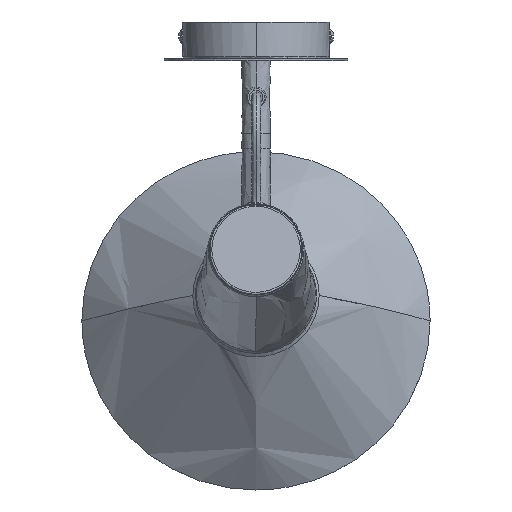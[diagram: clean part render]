
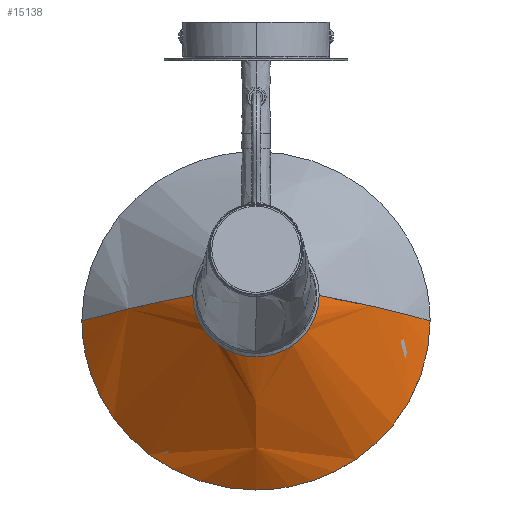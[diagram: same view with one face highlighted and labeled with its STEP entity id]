
A CAD part, top view. The second image highlights one B-rep face of the part: STEP entity #15138.
In plain terms, the highlighted free-form (B-spline) face has degree [3, 3] with [7, 4] control points.
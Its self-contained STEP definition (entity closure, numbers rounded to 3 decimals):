
#242 = CARTESIAN_POINT ( 'NONE',  ( -75.29, 4575.271, -757.945 ) ) ;
#1150 = CARTESIAN_POINT ( 'NONE',  ( 19.638, 4545.809, -712.557 ) ) ;
#1196 =( BOUNDED_CURVE ( )  B_SPLINE_CURVE ( 2, ( #3777, #8243, #12170 ),
 .UNSPECIFIED., .F., .F. ) 
 B_SPLINE_CURVE_WITH_KNOTS ( ( 3, 3 ),
 ( 0., 1. ),
 .UNSPECIFIED. ) 
 CURVE ( )  GEOMETRIC_REPRESENTATION_ITEM ( )  RATIONAL_B_SPLINE_CURVE ( ( 1., 0.707, 1. ) ) 
 REPRESENTATION_ITEM ( '' )  );
#1429 = CARTESIAN_POINT ( 'NONE',  ( -32.694, 4520.567, -723.74 ) ) ;
#1523 =( BOUNDED_CURVE ( )  B_SPLINE_CURVE ( 2, ( #4525, #19362, #4633 ),
 .UNSPECIFIED., .F., .F. ) 
 B_SPLINE_CURVE_WITH_KNOTS ( ( 3, 3 ),
 ( -84.326, 0. ),
 .UNSPECIFIED. ) 
 CURVE ( )  GEOMETRIC_REPRESENTATION_ITEM ( )  RATIONAL_B_SPLINE_CURVE ( ( 1., 0.994, 1. ) ) 
 REPRESENTATION_ITEM ( '' )  );
#1586 = VERTEX_POINT ( 'NONE', #11548 ) ;
#2173 = EDGE_CURVE ( 'NONE', #9201, #13531, #12275, .T. ) ;
#2676 =( BOUNDED_SURFACE ( )  B_SPLINE_SURFACE ( 3, 3, ( 
 ( #7180, #18673, #3942, #14670 ),
 ( #17879, #9731, #13381, #18203 ),
 ( #14996, #19818, #13276, #21219 ),
 ( #5070, #11664, #16606, #12949 ),
 ( #16284, #1429, #6591, #8335 ),
 ( #19924, #5178, #11342, #21113 ),
 ( #11766, #3366, #242, #6696 ) ),
 .UNSPECIFIED., .F., .F., .F. ) 
 B_SPLINE_SURFACE_WITH_KNOTS ( ( 4, 3, 4 ),
 ( 4, 4 ),
 ( 0., 177.375, 354.75 ),
 ( 0., 96.097 ),
 .UNSPECIFIED. ) 
 GEOMETRIC_REPRESENTATION_ITEM ( )  RATIONAL_B_SPLINE_SURFACE ( (
 ( 1.191, 1.186, 1.186, 1.191),
 ( 0.941, 0.937, 0.937, 0.941),
 ( 0.941, 0.937, 0.937, 0.941),
 ( 1.191, 1.186, 1.186, 1.191),
 ( 0.941, 0.937, 0.937, 0.941),
 ( 0.941, 0.937, 0.937, 0.941),
 ( 1.191, 1.186, 1.186, 1.191) ) ) 
 REPRESENTATION_ITEM ( '' )  SURFACE ( )  );
#2991 = CARTESIAN_POINT ( 'NONE',  ( -93.009, 4565.527, -777.5 ) ) ;
#3118 = ORIENTED_EDGE ( 'NONE', *, *, #11788, .T. ) ;
#3366 = CARTESIAN_POINT ( 'NONE',  ( -54.26, 4578.781, -737.854 ) ) ;
#3777 = CARTESIAN_POINT ( 'NONE',  ( 96.991, 4565.527, -777.5 ) ) ;
#3942 = CARTESIAN_POINT ( 'NONE',  ( 79.272, 4575.271, -757.945 ) ) ;
#4525 = CARTESIAN_POINT ( 'NONE',  ( 36.456, 4579.304, -720.678 ) ) ;
#4595 =( BOUNDED_CURVE ( )  B_SPLINE_CURVE ( 2, ( #14713, #11283, #11490 ),
 .UNSPECIFIED., .F., .F. ) 
 B_SPLINE_CURVE_WITH_KNOTS ( ( 3, 3 ),
 ( 0., 1. ),
 .UNSPECIFIED. ) 
 CURVE ( )  GEOMETRIC_REPRESENTATION_ITEM ( )  RATIONAL_B_SPLINE_CURVE ( ( 1., 0.707, 1. ) ) 
 REPRESENTATION_ITEM ( '' )  );
#4633 = CARTESIAN_POINT ( 'NONE',  ( 96.991, 4565.527, -777.5 ) ) ;
#5070 = CARTESIAN_POINT ( 'NONE',  ( 1.991, 4547.35, -711.871 ) ) ;
#5178 = CARTESIAN_POINT ( 'NONE',  ( -56.438, 4545.139, -729.698 ) ) ;
#5661 = CARTESIAN_POINT ( 'NONE',  ( 29.954, 4559.724, -715.931 ) ) ;
#5777 = CARTESIAN_POINT ( 'NONE',  ( -32.474, 4545.809, -712.557 ) ) ;
#5937 = ORIENTED_EDGE ( 'NONE', *, *, #18462, .F. ) ;
#5938 = EDGE_CURVE ( 'NONE', #12422, #17554, #4595, .T. ) ;
#6047 = ORIENTED_EDGE ( 'NONE', *, *, #9305, .T. ) ;
#6061 = CARTESIAN_POINT ( 'NONE',  ( 29.954, 4559.724, -715.931 ) ) ;
#6591 = CARTESIAN_POINT ( 'NONE',  ( -45.662, 4495.293, -738.554 ) ) ;
#6696 = CARTESIAN_POINT ( 'NONE',  ( -93.895, 4571.084, -780.183 ) ) ;
#7180 = CARTESIAN_POINT ( 'NONE',  ( 35.055, 4581.568, -720.167 ) ) ;
#7579 = CARTESIAN_POINT ( 'NONE',  ( 29.954, 4559.724, -715.931 ) ) ;
#7951 = ORIENTED_EDGE ( 'NONE', *, *, #7993, .F. ) ;
#7993 = EDGE_CURVE ( 'NONE', #14348, #12422, #1196, .T. ) ;
#8243 = CARTESIAN_POINT ( 'NONE',  ( 96.991, 4473.202, -755.115 ) ) ;
#8335 = CARTESIAN_POINT ( 'NONE',  ( -57.134, 4471.85, -756.124 ) ) ;
#8833 = CARTESIAN_POINT ( 'NONE',  ( 1.991, 4545.809, -712.557 ) ) ;
#9201 = VERTEX_POINT ( 'NONE', #13616 ) ;
#9305 = EDGE_CURVE ( 'NONE', #1586, #16277, #15792, .T. ) ;
#9510 =( BOUNDED_CURVE ( )  B_SPLINE_CURVE ( 2, ( #5661, #1150, #12249 ),
 .UNSPECIFIED., .F., .F. ) 
 B_SPLINE_CURVE_WITH_KNOTS ( ( 3, 3 ),
 ( -32.619, 0. ),
 .UNSPECIFIED. ) 
 CURVE ( )  GEOMETRIC_REPRESENTATION_ITEM ( )  RATIONAL_B_SPLINE_CURVE ( ( 1., 0.89, 1. ) ) 
 REPRESENTATION_ITEM ( '' )  );
#9731 = CARTESIAN_POINT ( 'NONE',  ( 60.42, 4545.139, -729.698 ) ) ;
#9933 = EDGE_LOOP ( 'NONE', ( #17039, #7951, #5937, #6047, #3118, #10764, #18330 ) ) ;
#10764 = ORIENTED_EDGE ( 'NONE', *, *, #2173, .T. ) ;
#10907 = CARTESIAN_POINT ( 'NONE',  ( 36.456, 4579.304, -720.678 ) ) ;
#11283 = CARTESIAN_POINT ( 'NONE',  ( -93.009, 4473.202, -755.115 ) ) ;
#11342 = CARTESIAN_POINT ( 'NONE',  ( -78.282, 4529.052, -746.739 ) ) ;
#11478 = CARTESIAN_POINT ( 'NONE',  ( -32.474, 4579.304, -720.678 ) ) ;
#11490 = CARTESIAN_POINT ( 'NONE',  ( -93.009, 4565.527, -777.5 ) ) ;
#11548 = CARTESIAN_POINT ( 'NONE',  ( 36.456, 4579.304, -720.678 ) ) ;
#11664 = CARTESIAN_POINT ( 'NONE',  ( 1.991, 4520.567, -723.74 ) ) ;
#11766 = CARTESIAN_POINT ( 'NONE',  ( -31.073, 4581.568, -720.167 ) ) ;
#11788 = EDGE_CURVE ( 'NONE', #16277, #9201, #9510, .T. ) ;
#12170 = CARTESIAN_POINT ( 'NONE',  ( 1.991, 4473.202, -755.115 ) ) ;
#12249 = CARTESIAN_POINT ( 'NONE',  ( 1.991, 4545.809, -712.557 ) ) ;
#12275 =( BOUNDED_CURVE ( )  B_SPLINE_CURVE ( 2, ( #8833, #5777, #15384 ),
 .UNSPECIFIED., .F., .F. ) 
 B_SPLINE_CURVE_WITH_KNOTS ( ( 3, 3 ),
 ( -54.137, 0. ),
 .UNSPECIFIED. ) 
 CURVE ( )  GEOMETRIC_REPRESENTATION_ITEM ( )  RATIONAL_B_SPLINE_CURVE ( ( 1., 0.707, 1. ) ) 
 REPRESENTATION_ITEM ( '' )  );
#12422 = VERTEX_POINT ( 'NONE', #20250 ) ;
#12949 = CARTESIAN_POINT ( 'NONE',  ( 1.991, 4471.85, -756.124 ) ) ;
#13232 = CARTESIAN_POINT ( 'NONE',  ( -65.931, 4573.194, -745.88 ) ) ;
#13276 = CARTESIAN_POINT ( 'NONE',  ( 49.644, 4495.293, -738.554 ) ) ;
#13381 = CARTESIAN_POINT ( 'NONE',  ( 82.264, 4529.052, -746.739 ) ) ;
#13531 = VERTEX_POINT ( 'NONE', #11478 ) ;
#13616 = CARTESIAN_POINT ( 'NONE',  ( 1.991, 4545.809, -712.557 ) ) ;
#14044 = CARTESIAN_POINT ( 'NONE',  ( 96.991, 4565.527, -777.5 ) ) ;
#14348 = VERTEX_POINT ( 'NONE', #14044 ) ;
#14670 = CARTESIAN_POINT ( 'NONE',  ( 97.877, 4571.084, -780.183 ) ) ;
#14713 = CARTESIAN_POINT ( 'NONE',  ( 1.991, 4473.202, -755.115 ) ) ;
#14996 = CARTESIAN_POINT ( 'NONE',  ( 22.379, 4547.35, -711.871 ) ) ;
#15138 = ADVANCED_FACE ( 'NONE', ( #15362 ), #2676, .T. ) ;
#15362 = FACE_OUTER_BOUND ( 'NONE', #9933, .T. ) ;
#15384 = CARTESIAN_POINT ( 'NONE',  ( -32.474, 4579.304, -720.678 ) ) ;
#15792 =( BOUNDED_CURVE ( )  B_SPLINE_CURVE ( 2, ( #10907, #17037, #7579 ),
 .UNSPECIFIED., .F., .F. ) 
 B_SPLINE_CURVE_WITH_KNOTS ( ( 3, 3 ),
 ( -21.518, 0. ),
 .UNSPECIFIED. ) 
 CURVE ( )  GEOMETRIC_REPRESENTATION_ITEM ( )  RATIONAL_B_SPLINE_CURVE ( ( 1., 0.952, 1. ) ) 
 REPRESENTATION_ITEM ( '' )  );
#16277 = VERTEX_POINT ( 'NONE', #6061 ) ;
#16284 = CARTESIAN_POINT ( 'NONE',  ( -18.397, 4547.35, -711.871 ) ) ;
#16606 = CARTESIAN_POINT ( 'NONE',  ( 1.991, 4495.293, -738.554 ) ) ;
#16654 = EDGE_CURVE ( 'NONE', #17554, #13531, #18625, .T. ) ;
#17037 = CARTESIAN_POINT ( 'NONE',  ( 36.456, 4568.494, -718.057 ) ) ;
#17039 = ORIENTED_EDGE ( 'NONE', *, *, #5938, .F. ) ;
#17554 = VERTEX_POINT ( 'NONE', #18841 ) ;
#17879 = CARTESIAN_POINT ( 'NONE',  ( 36.335, 4561.793, -715.373 ) ) ;
#18053 = CARTESIAN_POINT ( 'NONE',  ( -32.474, 4579.304, -720.678 ) ) ;
#18203 = CARTESIAN_POINT ( 'NONE',  ( 101.59, 4513.737, -766.279 ) ) ;
#18330 = ORIENTED_EDGE ( 'NONE', *, *, #16654, .F. ) ;
#18462 = EDGE_CURVE ( 'NONE', #1586, #14348, #1523, .T. ) ;
#18625 =( BOUNDED_CURVE ( )  B_SPLINE_CURVE ( 2, ( #2991, #13232, #18053 ),
 .UNSPECIFIED., .F., .T. ) 
 B_SPLINE_CURVE_WITH_KNOTS ( ( 3, 3 ),
 ( -84.326, 0. ),
 .UNSPECIFIED. ) 
 CURVE ( )  GEOMETRIC_REPRESENTATION_ITEM ( )  RATIONAL_B_SPLINE_CURVE ( ( 1., 0.994, 1. ) ) 
 REPRESENTATION_ITEM ( '' )  );
#18673 = CARTESIAN_POINT ( 'NONE',  ( 58.242, 4578.781, -737.854 ) ) ;
#18841 = CARTESIAN_POINT ( 'NONE',  ( -93.009, 4565.527, -777.5 ) ) ;
#19362 = CARTESIAN_POINT ( 'NONE',  ( 69.912, 4573.194, -745.88 ) ) ;
#19818 = CARTESIAN_POINT ( 'NONE',  ( 36.676, 4520.567, -723.74 ) ) ;
#19924 = CARTESIAN_POINT ( 'NONE',  ( -32.354, 4561.793, -715.373 ) ) ;
#20250 = CARTESIAN_POINT ( 'NONE',  ( 1.991, 4473.202, -755.115 ) ) ;
#21113 = CARTESIAN_POINT ( 'NONE',  ( -97.608, 4513.737, -766.279 ) ) ;
#21219 = CARTESIAN_POINT ( 'NONE',  ( 61.116, 4471.85, -756.124 ) ) ;
